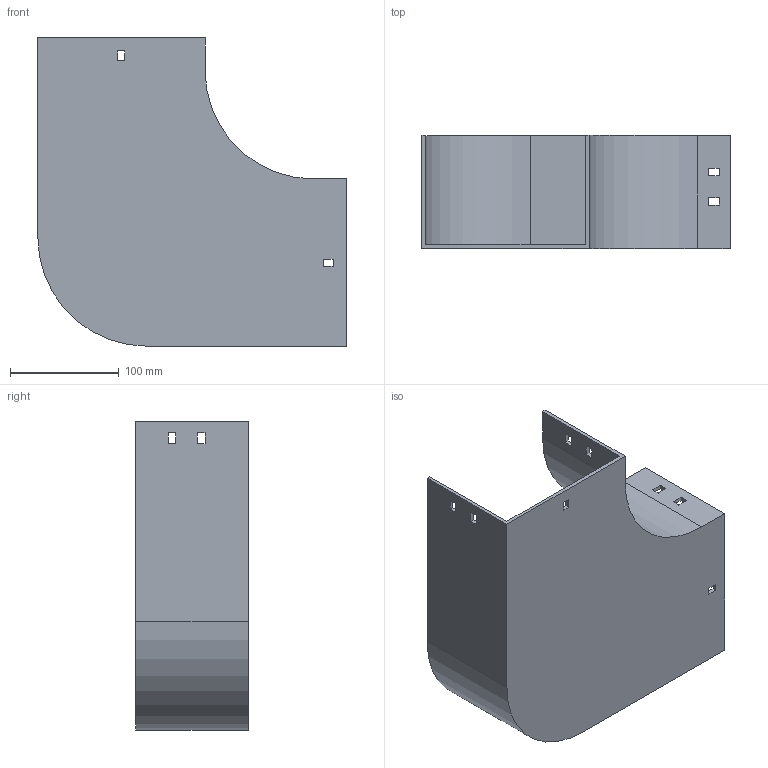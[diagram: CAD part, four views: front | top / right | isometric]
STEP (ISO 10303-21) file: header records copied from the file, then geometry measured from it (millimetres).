
FILE_DESCRIPTION (( 'STEP AP214' ), '1' );
FILE_NAME ('10F1D150.step', '2025-02-21T12:56:26', ( '' ), ( '' ), 'SwSTEP 2.0', 'SolidWorks 2023', '' );
FILE_SCHEMA (( 'AUTOMOTIVE_DESIGN' ));
Length unit declared in the file: millimetre
Products named in the file (1): 10F1D150
Bounding box: 284 x 104 x 284 mm (x, y, z)
Volume: 481831 mm3; surface area: 281583.6 mm2
Topology: 1 solids, 1 shells, 58 faces, 168 edges, 112 vertices
Faces by surface type: plane 54, cylinder 4
Entity records: 1943 total; most frequent: CARTESIAN_POINT 339, ORIENTED_EDGE 336, DIRECTION 294, EDGE_CURVE 168, VECTOR 160, LINE 160, VERTEX_POINT 112, EDGE_LOOP 78
